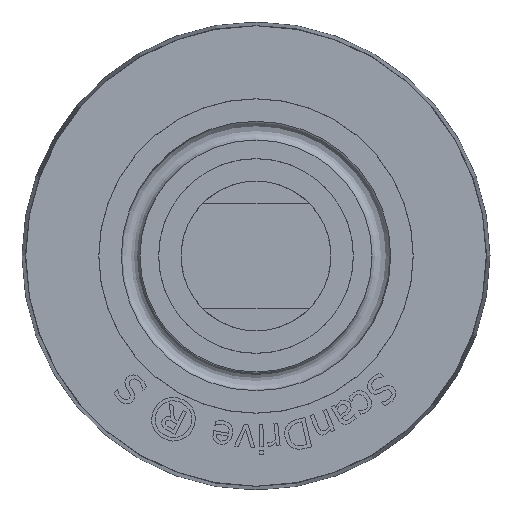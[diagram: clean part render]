
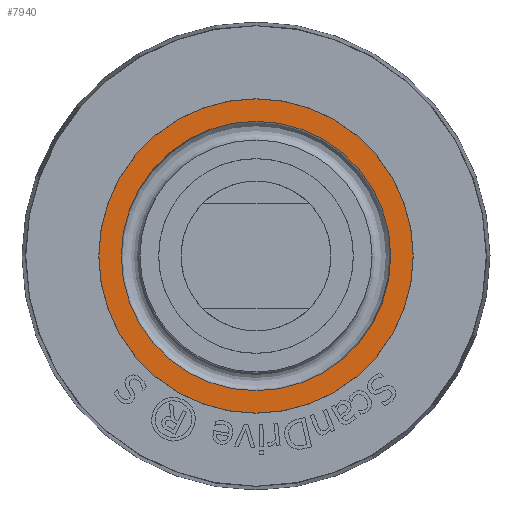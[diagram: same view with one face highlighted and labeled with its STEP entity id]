
A CAD part, left-side view. The second image highlights one B-rep face of the part: STEP entity #7940.
In plain terms, the highlighted planar face has unit normal (-1, 0, 0).
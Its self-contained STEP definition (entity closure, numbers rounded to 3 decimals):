
#60=CIRCLE('',#8324,17.99);
#61=CIRCLE('',#8326,20.99);
#151=FACE_BOUND('',#1490,.T.);
#1002=FACE_OUTER_BOUND('',#1489,.T.);
#1489=EDGE_LOOP('',(#6306));
#1490=EDGE_LOOP('',(#6307));
#3608=VERTEX_POINT('',#12298);
#3609=VERTEX_POINT('',#12301);
#4583=EDGE_CURVE('',#3608,#3608,#60,.T.);
#4584=EDGE_CURVE('',#3609,#3609,#61,.T.);
#6306=ORIENTED_EDGE('',*,*,#4584,.T.);
#6307=ORIENTED_EDGE('',*,*,#4583,.F.);
#7598=PLANE('',#8325);
#7940=ADVANCED_FACE('',(#1002,#151),#7598,.T.);
#8324=AXIS2_PLACEMENT_3D('',#12299,#9143,#9144);
#8325=AXIS2_PLACEMENT_3D('',#12300,#9145,#9146);
#8326=AXIS2_PLACEMENT_3D('',#12302,#9147,#9148);
#9143=DIRECTION('center_axis',(-1.,0.,0.));
#9144=DIRECTION('ref_axis',(0.,0.,1.));
#9145=DIRECTION('center_axis',(-1.,0.,0.));
#9146=DIRECTION('ref_axis',(0.,0.,1.));
#9147=DIRECTION('center_axis',(-1.,0.,0.));
#9148=DIRECTION('ref_axis',(0.,0.,1.));
#12298=CARTESIAN_POINT('',(-400.,0.,17.99));
#12299=CARTESIAN_POINT('Origin',(-400.,0.,0.));
#12300=CARTESIAN_POINT('Origin',(-400.,0.,17.99));
#12301=CARTESIAN_POINT('',(-400.,0.,20.99));
#12302=CARTESIAN_POINT('Origin',(-400.,0.,0.));
